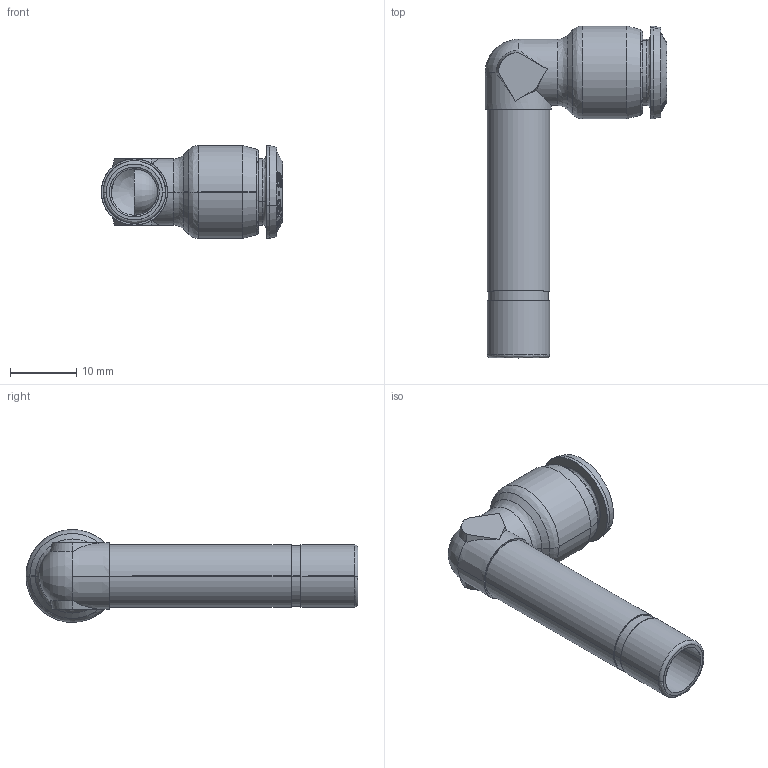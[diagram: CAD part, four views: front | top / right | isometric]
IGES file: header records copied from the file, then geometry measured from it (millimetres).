
Start section: SolidWorks IGES file using analytic representation for surfaces
Global section: file name: K:\Disegni Esecutivi\ALPHA TECHNOLOGIES\85000\Assiemi-85000\85150\IGES\8515000008.IGS; native system: SolidWorks 2016; preprocessor: SolidWorks 2016; author: cad06; date: 191009.082423; units: millimetre
Bounding box: 27.4 x 50.1 x 14 mm (x, y, z)
Surface area: 3964.3 mm2 (no closed solid volume)
Topology: 0 solids, 0 shells, 192 faces, 1993 edges, 1991 vertices
Faces by surface type: bspline 128, revolution 64
